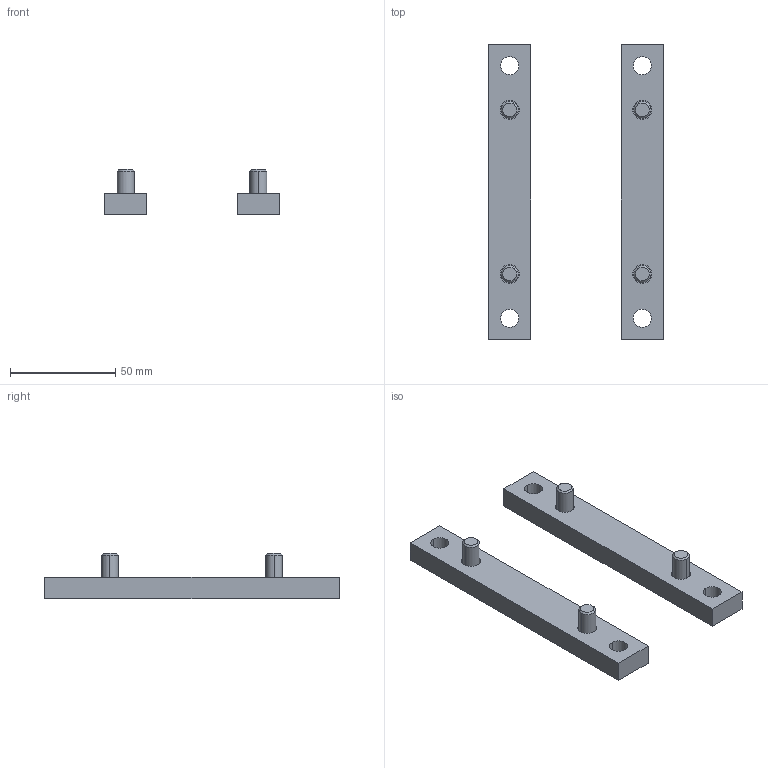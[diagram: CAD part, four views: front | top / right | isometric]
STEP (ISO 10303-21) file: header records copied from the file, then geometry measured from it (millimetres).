
FILE_DESCRIPTION (( 'STEP AP203' ), '1' );
FILE_NAME ('MJ2-BL.STEP', '2024-01-16T10:24:26', ( '' ), ( '' ), 'SwSTEP 2.0', 'SolidWorks 2022', '' );
FILE_SCHEMA (( 'CONFIG_CONTROL_DESIGN' ));
Length unit declared in the file: millimetre
Products named in the file (1): MJ2-BL
Bounding box: 83 x 140 x 21.4 mm (x, y, z)
Volume: 54179.3 mm3; surface area: 22907.6 mm2
Topology: 6 solids, 6 shells, 124 faces, 304 edges, 196 vertices
Faces by surface type: plane 52, cylinder 40, torus 16, cone 16
Entity records: 3711 total; most frequent: CARTESIAN_POINT 681, DIRECTION 650, ORIENTED_EDGE 592, EDGE_CURVE 296, AXIS2_PLACEMENT_3D 261, VERTEX_POINT 196, EDGE_LOOP 152, CIRCLE 136
